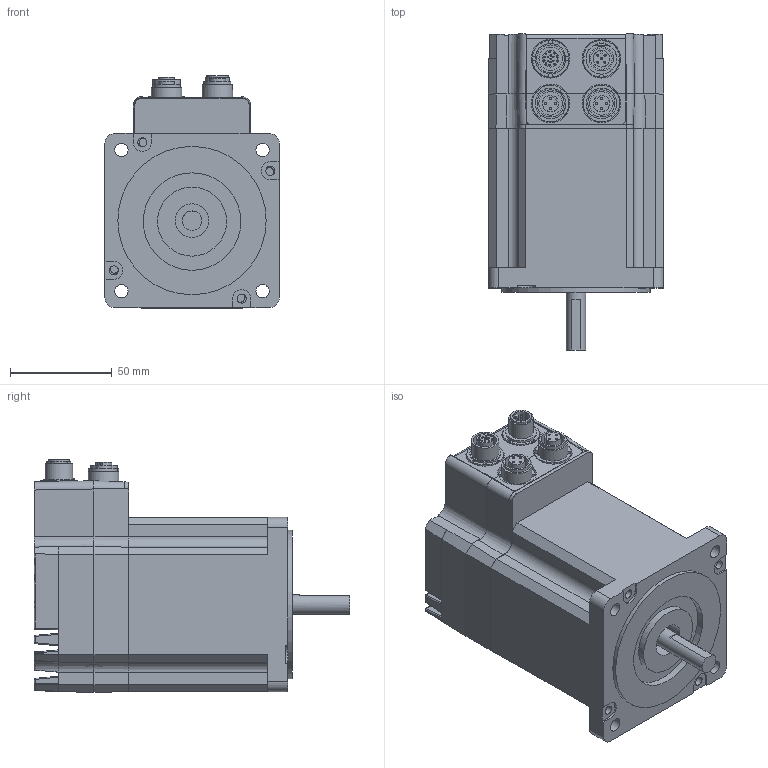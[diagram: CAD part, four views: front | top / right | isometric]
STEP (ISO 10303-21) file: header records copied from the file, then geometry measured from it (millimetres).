
FILE_DESCRIPTION( ( 'Unknown' ), '1' );
FILE_NAME( 'K:/JVL/MISxx/MIS34x/CAD internet tegninger/STEP/STEP/Ver 1_13/MIS341C12xxxx85.stp', 'Unknown', ( 'Unknown' ), ( 'Unknown' ), 'PSStep 11.0', 'Unknown', ' ' );
FILE_SCHEMA( ( 'AUTOMOTIVE_DESIGN { 1 0 10303 214 1 1 1 1 }' ) );
Length unit declared in the file: millimetre
Products named in the file (5): MIS341 single shaft motor
Bounding box: 86.41 x 155.5 x 114.53 mm (x, y, z)
Volume: 844298.4 mm3; surface area: 103974.4 mm2
Topology: 5 solids, 6 shells, 1056 faces, 2512 edges, 1542 vertices
Faces by surface type: plane 484, cylinder 422, sphere 109, cone 19, bspline 15, torus 7
Full cylindrical faces by diameter (mm): 0.7 x17, 1 x17, 3 x5, 4.3 x4, 4.4 x4, 6.6 x4, 8.2 x1, 9.53 x1, 10.6 x1, 11.5 x3, 12 x1, 13.3 x2, 13.6 x1, 16 x1, 16.5 x1, 18 x4, 19 x6, 34 x1, 48 x1, 73 x1
Entity records: 38827 total; most frequent: CARTESIAN_POINT 5812, DIRECTION 5370, ORIENTED_EDGE 4808, EDGE_CURVE 2404, AXIS2_PLACEMENT_3D 1975, VERTEX_POINT 1519, LINE 1420, VECTOR 1420
